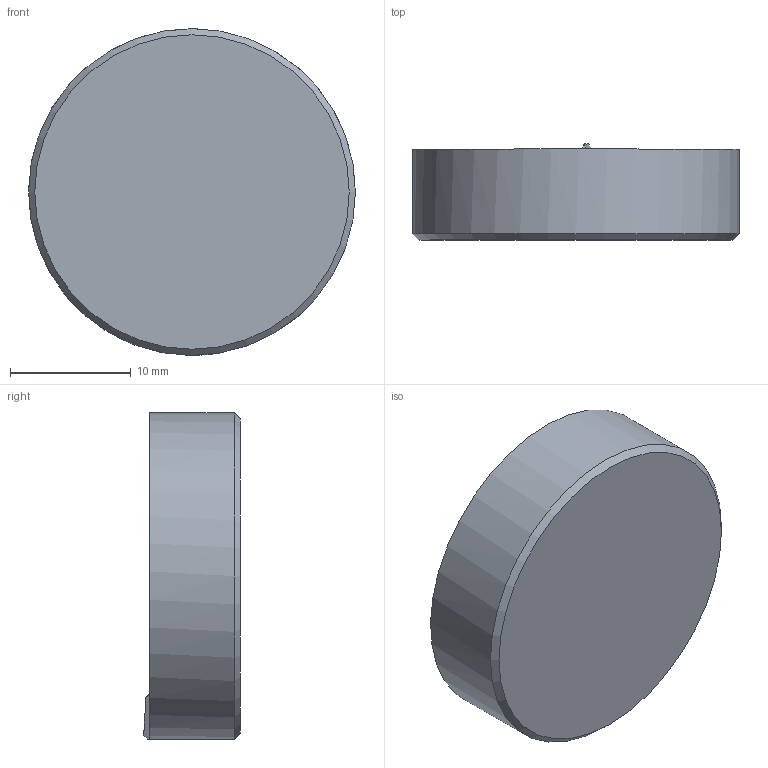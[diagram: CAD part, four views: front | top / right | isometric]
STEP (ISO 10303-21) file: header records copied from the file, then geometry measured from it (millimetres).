
FILE_DESCRIPTION( ( 'STEP AP203' ), '1' );
FILE_NAME( 'C:/Temp/Ganter_Step_05_03_2020/data/3_2/gn187_4/gn187_4_st/Serrated locking plate GN 187.4-27-48-E-ST.stp', '2020-03-13T05:25:49', ( 'License CC BY-ND 4.0' ), ( 'CADENAS' ), ' ', 'PARTsolutions', ' ' );
FILE_SCHEMA( ( 'CONFIG_CONTROL_DESIGN' ) );
Length unit declared in the file: millimetre
Products named in the file (1): _Serrated locking plate GN 187.4-27-48-E-ST
Bounding box: 27 x 7.98 x 27 mm (x, y, z)
Volume: 3983.2 mm3; surface area: 1822 mm2
Topology: 1 solids, 1 shells, 16 faces, 41 edges, 27 vertices
Faces by surface type: plane 7, cone 5, cylinder 4
Full cylindrical faces by diameter (mm): 19.5 x1, 27 x1
Entity records: 590 total; most frequent: CARTESIAN_POINT 186, DIRECTION 76, ORIENTED_EDGE 72, EDGE_CURVE 36, AXIS2_PLACEMENT_3D 35, VERTEX_POINT 25, EDGE_LOOP 19, FACE_OUTER_BOUND 18
